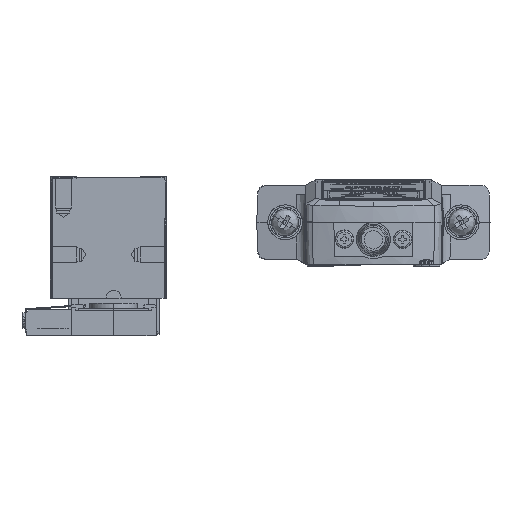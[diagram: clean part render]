
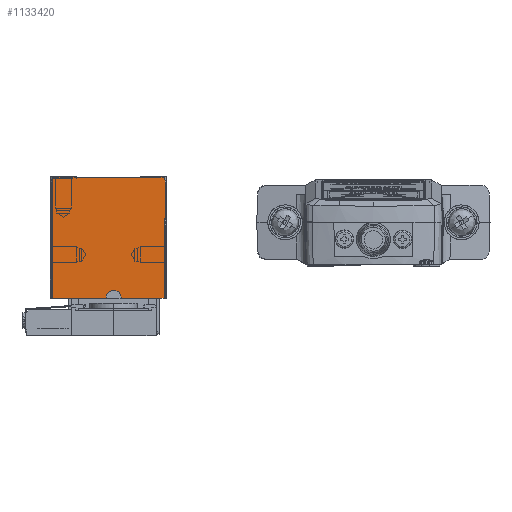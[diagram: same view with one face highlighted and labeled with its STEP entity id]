
A CAD part, left-side view. The second image highlights one B-rep face of the part: STEP entity #1133420.
In plain terms, the highlighted planar face has unit normal (-1, 0, 0).
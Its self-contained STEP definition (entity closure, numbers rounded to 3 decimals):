
#1105990=CARTESIAN_POINT('',(0.,21.5,0.));
#1106000=VERTEX_POINT('',#1105990);
#1106230=CARTESIAN_POINT('',(0.,17.,0.));
#1106240=VERTEX_POINT('',#1106230);
#1106270=CARTESIAN_POINT('',(0.,0.,0.));
#1106280=DIRECTION('',(0.,1.,0.));
#1106290=VECTOR('',#1106280,1.);
#1106300=LINE('',#1106270,#1106290);
#1106310=EDGE_CURVE('',#1106240,#1106000,#1106300,.T.);
#1106550=CARTESIAN_POINT('',(0.,0.5,-8.));
#1106560=VERTEX_POINT('',#1106550);
#1110740=CARTESIAN_POINT('',(0.,21.5,-23.));
#1110750=VERTEX_POINT('',#1110740);
#1110780=CARTESIAN_POINT('',(0.,0.,-23.));
#1110790=DIRECTION('',(0.,-1.,0.));
#1110800=VECTOR('',#1110790,1.);
#1110810=LINE('',#1110780,#1110800);
#1110820=CARTESIAN_POINT('',(0.,11.4,-23.));
#1110830=VERTEX_POINT('',#1110820);
#1110840=EDGE_CURVE('',#1110750,#1110830,#1110810,.T.);
#1111060=CARTESIAN_POINT('',(0.,8.6,-23.));
#1111070=VERTEX_POINT('',#1111060);
#1111100=CARTESIAN_POINT('',(0.,0.,-23.));
#1111110=DIRECTION('',(0.,1.,0.));
#1111120=VECTOR('',#1111110,1.);
#1111130=LINE('',#1111100,#1111120);
#1111140=CARTESIAN_POINT('',(0.,0.5,-23.));
#1111150=VERTEX_POINT('',#1111140);
#1111160=EDGE_CURVE('',#1111150,#1111070,#1111130,.T.);
#1119530=CARTESIAN_POINT('',(0.,0.5,0.));
#1119540=DIRECTION('',(0.,0.,-1.));
#1119550=VECTOR('',#1119540,1.);
#1119560=LINE('',#1119530,#1119550);
#1119570=CARTESIAN_POINT('',(0.,0.5,-7.9));
#1119580=VERTEX_POINT('',#1119570);
#1119590=EDGE_CURVE('',#1119580,#1106560,#1119560,.T.);
#1120460=CARTESIAN_POINT('',(0.,0.2,-1.1));
#1120470=VERTEX_POINT('',#1120460);
#1120500=CARTESIAN_POINT('',(0.,1.1,-1.1));
#1120510=DIRECTION('',(1.,0.,0.));
#1120520=DIRECTION('',(0.,-1.,0.));
#1120530=AXIS2_PLACEMENT_3D('',#1120500,#1120510,#1120520);
#1120540=CIRCLE('',#1120530,0.9);
#1120550=CARTESIAN_POINT('',(0.,1.1,-0.2));
#1120560=VERTEX_POINT('',#1120550);
#1120570=EDGE_CURVE('',#1120560,#1120470,#1120540,.T.);
#1121350=CARTESIAN_POINT('',(0.,21.5,-11.5));
#1121360=DIRECTION('',(0.,0.,-1.));
#1121370=VECTOR('',#1121360,1.);
#1121380=LINE('',#1121350,#1121370);
#1121390=EDGE_CURVE('',#1106000,#1110750,#1121380,.T.);
#1122320=CARTESIAN_POINT('',(0.,10.2,-22.8));
#1122330=DIRECTION('',(1.,0.,0.));
#1122340=DIRECTION('',(0.,-1.,0.));
#1122350=AXIS2_PLACEMENT_3D('',#1122320,#1122330,#1122340);
#1122360=CIRCLE('',#1122350,1.2);
#1122370=CARTESIAN_POINT('',(0.,11.4,-22.8));
#1122380=VERTEX_POINT('',#1122370);
#1122390=CARTESIAN_POINT('',(0.,10.2,-21.6));
#1122400=VERTEX_POINT('',#1122390);
#1122410=EDGE_CURVE('',#1122380,#1122400,#1122360,.T.);
#1123440=CARTESIAN_POINT('',(0.,0.5,-15.5));
#1123450=DIRECTION('',(0.,0.,-1.));
#1123460=VECTOR('',#1123450,1.);
#1123470=LINE('',#1123440,#1123460);
#1123480=EDGE_CURVE('',#1106560,#1111150,#1123470,.T.);
#1123600=CARTESIAN_POINT('',(0.,9.8,-22.8));
#1123610=DIRECTION('',(1.,0.,0.));
#1123620=DIRECTION('',(0.,-1.,0.));
#1123630=AXIS2_PLACEMENT_3D('',#1123600,#1123610,#1123620);
#1123640=CIRCLE('',#1123630,1.2);
#1123650=CARTESIAN_POINT('',(0.,9.8,-21.6));
#1123660=VERTEX_POINT('',#1123650);
#1123670=CARTESIAN_POINT('',(0.,8.6,-22.8));
#1123680=VERTEX_POINT('',#1123670);
#1123690=EDGE_CURVE('',#1123660,#1123680,#1123640,.T.);
#1125940=CARTESIAN_POINT('',(0.,0.,-21.6));
#1125950=DIRECTION('',(0.,1.,0.));
#1125960=VECTOR('',#1125950,1.);
#1125970=LINE('',#1125940,#1125960);
#1125980=EDGE_CURVE('',#1123660,#1122400,#1125970,.T.);
#1126250=CARTESIAN_POINT('',(0.,17.,-0.5));
#1126260=VERTEX_POINT('',#1126250);
#1126310=CARTESIAN_POINT('',(0.,17.,0.));
#1126320=DIRECTION('',(0.,0.,-1.));
#1126330=VECTOR('',#1126320,1.);
#1126340=LINE('',#1126310,#1126330);
#1126350=EDGE_CURVE('',#1106240,#1126260,#1126340,.T.);
#1127020=CARTESIAN_POINT('',(0.,11.4,0.));
#1127030=DIRECTION('',(0.,0.,-1.));
#1127040=VECTOR('',#1127030,1.);
#1127050=LINE('',#1127020,#1127040);
#1127060=EDGE_CURVE('',#1122380,#1110830,#1127050,.T.);
#1129740=CARTESIAN_POINT('',(0.,8.6,0.));
#1129750=DIRECTION('',(0.,0.,1.));
#1129760=VECTOR('',#1129750,1.);
#1129770=LINE('',#1129740,#1129760);
#1129780=EDGE_CURVE('',#1111070,#1123680,#1129770,.T.);
#1132410=CARTESIAN_POINT('',(0.,5.646,-7.9));
#1132420=DIRECTION('',(0.,1.,0.));
#1132430=VECTOR('',#1132420,1.);
#1132440=LINE('',#1132410,#1132430);
#1132450=CARTESIAN_POINT('',(0.,0.2,-7.9));
#1132460=VERTEX_POINT('',#1132450);
#1132470=EDGE_CURVE('',#1132460,#1119580,#1132440,.T.);
#1132930=CARTESIAN_POINT('',(0.,21.9,-6.));
#1132940=DIRECTION('',(-1.,-0.,-0.));
#1132950=DIRECTION('',(0.,0.,-1.));
#1132960=AXIS2_PLACEMENT_3D('',#1132930,#1132940,#1132950);
#1132970=PLANE('',#1132960);
#1132980=CARTESIAN_POINT('',(0.,5.646,
-0.2));
#1132990=DIRECTION('',(0.,-1.,0.));
#1133000=VECTOR('',#1132990,1.);
#1133010=LINE('',#1132980,#1133000);
#1133020=CARTESIAN_POINT('',(0.,16.95,-0.2));
#1133030=VERTEX_POINT('',#1133020);
#1133040=EDGE_CURVE('',#1133030,#1120560,#1133010,.T.);
#1133050=ORIENTED_EDGE('',*,*,#1133040,.F.);
#1133060=ORIENTED_EDGE('',*,*,#1120570,.F.);
#1133070=CARTESIAN_POINT('',(0.,0.2,
-0.2));
#1133080=DIRECTION('',(0.,0.,-1.));
#1133090=VECTOR('',#1133080,1.);
#1133100=LINE('',#1133070,#1133090);
#1133110=EDGE_CURVE('',#1120470,#1132460,#1133100,.T.);
#1133120=ORIENTED_EDGE('',*,*,#1133110,.F.);
#1133130=ORIENTED_EDGE('',*,*,#1132470,.F.);
#1133140=ORIENTED_EDGE('',*,*,#1119590,.F.);
#1133150=ORIENTED_EDGE('',*,*,#1123480,.F.);
#1133160=ORIENTED_EDGE('',*,*,#1111160,.F.);
#1133170=ORIENTED_EDGE('',*,*,#1129780,.F.);
#1133180=ORIENTED_EDGE('',*,*,#1123690,.T.);
#1133190=ORIENTED_EDGE('',*,*,#1125980,.F.);
#1133200=ORIENTED_EDGE('',*,*,#1122410,.T.);
#1133210=ORIENTED_EDGE('',*,*,#1127060,.F.);
#1133220=ORIENTED_EDGE('',*,*,#1110840,.T.);
#1133230=ORIENTED_EDGE('',*,*,#1121390,.T.);
#1133240=ORIENTED_EDGE('',*,*,#1106310,.T.);
#1133250=ORIENTED_EDGE('',*,*,#1126350,.F.);
#1133260=CARTESIAN_POINT('',(0.,0.,-0.5));
#1133270=DIRECTION('',(0.,1.,0.));
#1133280=VECTOR('',#1133270,1.);
#1133290=LINE('',#1133260,#1133280);
#1133300=CARTESIAN_POINT('',(0.,16.95,-0.5));
#1133310=VERTEX_POINT('',#1133300);
#1133320=EDGE_CURVE('',#1133310,#1126260,#1133290,.T.);
#1133330=ORIENTED_EDGE('',*,*,#1133320,.T.);
#1133340=CARTESIAN_POINT('',(0.,16.95,-0.8));
#1133350=DIRECTION('',(0.,0.,1.));
#1133360=VECTOR('',#1133350,1.);
#1133370=LINE('',#1133340,#1133360);
#1133380=EDGE_CURVE('',#1133310,#1133030,#1133370,.T.);
#1133390=ORIENTED_EDGE('',*,*,#1133380,.F.);
#1133400=EDGE_LOOP('',(#1133390,#1133330,#1133250,#1133240,#1133230,
#1133220,#1133210,#1133200,#1133190,#1133180,#1133170,#1133160,#1133150,
#1133140,#1133130,#1133120,#1133060,#1133050));
#1133410=FACE_OUTER_BOUND('',#1133400,.T.);
#1133420=ADVANCED_FACE('',(#1133410),#1132970,.T.);
